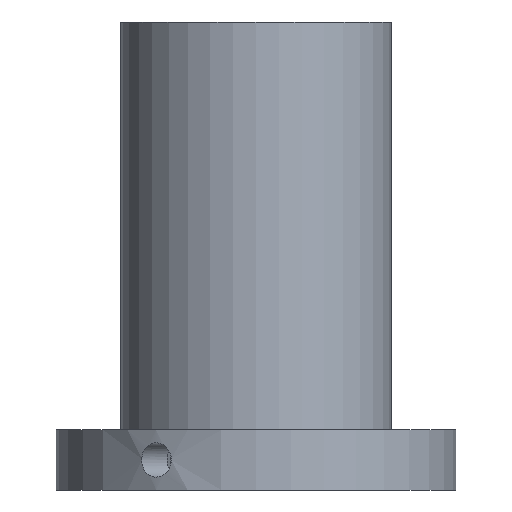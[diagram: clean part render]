
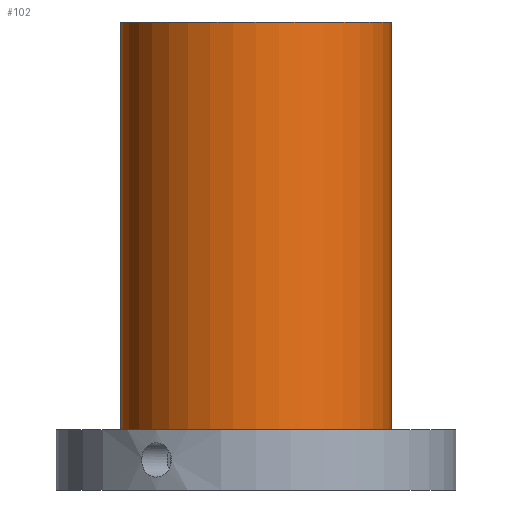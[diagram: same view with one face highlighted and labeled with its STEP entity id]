
A CAD part, front view. The second image highlights one B-rep face of the part: STEP entity #102.
In plain terms, the highlighted cylindrical face has radius 31.5 mm (diameter 63 mm), a full revolution.
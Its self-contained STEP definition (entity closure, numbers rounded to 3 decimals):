
#102=ADVANCED_FACE('',(#136,#137),#119,.T.);
#119=CYLINDRICAL_SURFACE('',#371,31.5);
#136=FACE_BOUND('',#188,.T.);
#137=FACE_BOUND('',#189,.T.);
#188=EDGE_LOOP('',(#240));
#189=EDGE_LOOP('',(#241));
#240=ORIENTED_EDGE('',*,*,#318,.F.);
#241=ORIENTED_EDGE('',*,*,#319,.T.);
#292=VERTEX_POINT('',#557);
#293=VERTEX_POINT('',#559);
#318=EDGE_CURVE('',#292,#292,#343,.T.);
#319=EDGE_CURVE('',#293,#293,#344,.T.);
#343=CIRCLE('',#369,31.5);
#344=CIRCLE('',#370,31.5);
#369=AXIS2_PLACEMENT_3D('',#556,#415,#416);
#370=AXIS2_PLACEMENT_3D('',#558,#417,#418);
#371=AXIS2_PLACEMENT_3D('',#560,#419,#420);
#415=DIRECTION('',(0.,0.,-1.));
#416=DIRECTION('',(1.,0.,0.));
#417=DIRECTION('',(0.,0.,-1.));
#418=DIRECTION('',(1.,0.,0.));
#419=DIRECTION('',(0.,0.,-1.));
#420=DIRECTION('',(-1.,0.,0.));
#556=CARTESIAN_POINT('',(0.,0.,14.));
#557=CARTESIAN_POINT('',(31.5,0.,14.));
#558=CARTESIAN_POINT('',(0.,0.,109.));
#559=CARTESIAN_POINT('',(31.5,0.,109.));
#560=CARTESIAN_POINT('',(0.,0.,109.));
